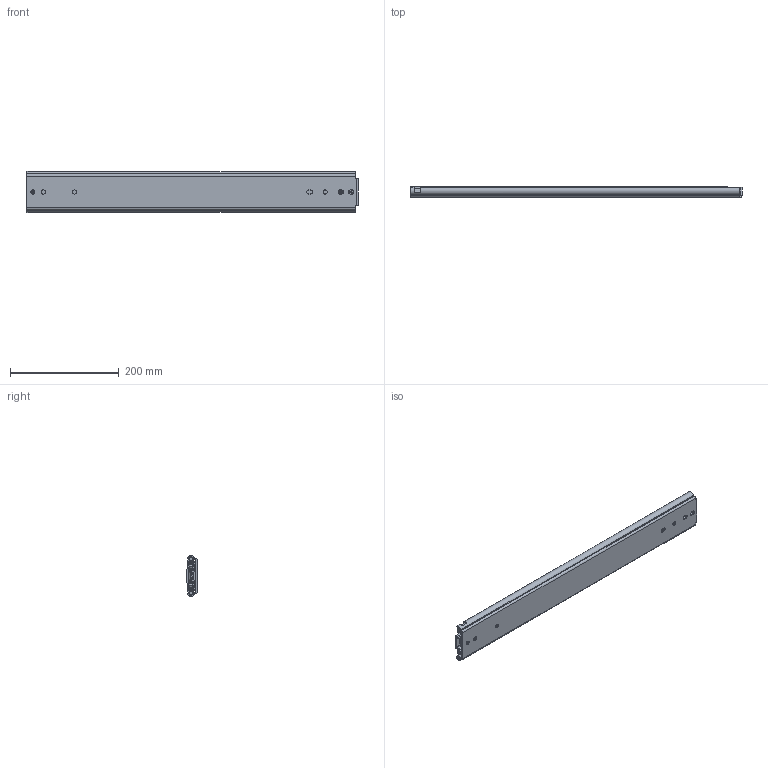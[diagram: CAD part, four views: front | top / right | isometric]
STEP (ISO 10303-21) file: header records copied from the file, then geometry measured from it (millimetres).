
FILE_DESCRIPTION((''),'2;1');
FILE_NAME('DG-76-02-24_ASM','2023-05-15T',('jishu015'),(''),'PRO/ENGINEER BY PARAMETRIC TECHNOLOGY CORPORATION, 2010280','PRO/ENGINEER BY PARAMETRIC TECHNOLOGY CORPORATION, 2010280','');
FILE_SCHEMA(('CONFIG_CONTROL_DESIGN'));
Length unit declared in the file: millimetre
Products named in the file (18): KP-76-04WAIKE3_____________; 1076-WAIKEZIDANJIAO31_; WAIK72______________ASM; 1076XIAOZHUTIAO1_____________; 163_____________; 1076XIAOZHUTIAO1______________ASM; KP-76-04ZHONGGUI3_____________; 76CHANGGUIZHONGGUIJIAO31____; 3X6WODIN3_____________; PJ-76-33_____________; 76-XIAOZHUJIA3_____________; GANGZHU-XIAO3_____________; ZHUJIA-XIAO3______________ASM; ZHONGGUI3______________ASM; KP-76-04NEIGUI3_____________; XIN-TANPIAN_____________; NEIGUI3______________ASM; DG-76-02-24_ASM
Assembly tree (48 placements, depth 4):
  DG-76-02-24_ASM
    WAIK72______________ASM
      KP-76-04WAIKE3_____________
      1076-WAIKEZIDANJIAO31_  x2
    1076XIAOZHUTIAO1______________ASM  x2
      1076XIAOZHUTIAO1_____________
      163_____________
    ZHONGGUI3______________ASM
      KP-76-04ZHONGGUI3_____________
      76CHANGGUIZHONGGUIJIAO31____
      3X6WODIN3_____________
      PJ-76-33_____________
      ZHUJIA-XIAO3______________ASM
        76-XIAOZHUJIA3_____________
        GANGZHU-XIAO3_____________  x20
    NEIGUI3______________ASM
      KP-76-04NEIGUI3_____________
      XIN-TANPIAN_____________
Bounding box: 609.6 x 19.5 x 75.3 mm (x, y, z)
Volume: 395245 mm3; surface area: 378812 mm2
Topology: 54 solids, 54 shells, 1282 faces, 3986 edges, 2533 vertices
Faces by surface type: plane 721, cylinder 427, sphere 86, extrusion 30, cone 18
Entity records: 39203 total; most frequent: CARTESIAN_POINT 8582, ORIENTED_EDGE 6668, DIRECTION 6070, EDGE_CURVE 3334, VERTEX_POINT 2185, AXIS2_PLACEMENT_3D 2025, VECTOR 2020, LINE 1990
